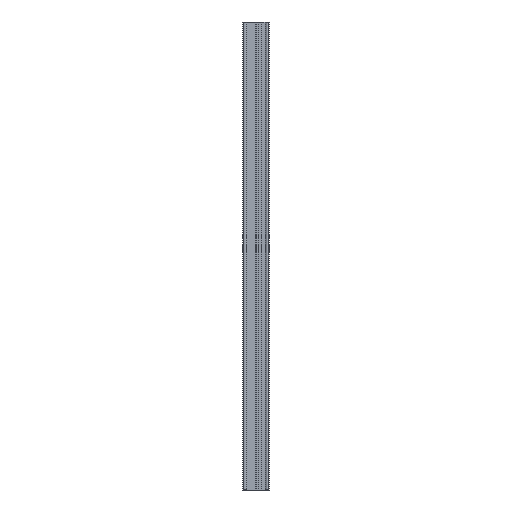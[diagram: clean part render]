
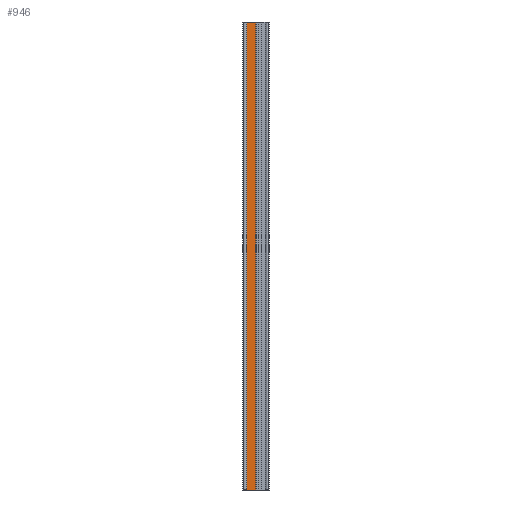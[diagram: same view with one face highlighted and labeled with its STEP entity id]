
A CAD part, left-side view. The second image highlights one B-rep face of the part: STEP entity #946.
In plain terms, the highlighted planar face has unit normal (-1, 0, 0).
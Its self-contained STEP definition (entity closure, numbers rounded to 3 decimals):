
#946 = ADVANCED_FACE ( 'NONE', ( #4521 ), #4520, .T. ) ;
#947 = EDGE_LOOP ( 'NONE', ( #948, #951, #954, #956 ) ) ;
#948 = ORIENTED_EDGE ( 'NONE', *, *, #949, .F. ) ;
#949 = EDGE_CURVE ( 'NONE', #950, #1042, #4515, .T. ) ;
#950 = VERTEX_POINT ( 'NONE', #4511 ) ;
#951 = ORIENTED_EDGE ( 'NONE', *, *, #952, .F. ) ;
#952 = EDGE_CURVE ( 'NONE', #953, #950, #4510, .T. ) ;
#953 = VERTEX_POINT ( 'NONE', #4506 ) ;
#954 = ORIENTED_EDGE ( 'NONE', *, *, #955, .T. ) ;
#955 = EDGE_CURVE ( 'NONE', #953, #1045, #4452, .T. ) ;
#956 = ORIENTED_EDGE ( 'NONE', *, *, #1044, .T. ) ;
#1042 = VERTEX_POINT ( 'NONE', #4899 ) ;
#1044 = EDGE_CURVE ( 'NONE', #1045, #1042, #4898, .T. ) ;
#1045 = VERTEX_POINT ( 'NONE', #4894 ) ;
#4449 = DIRECTION ( 'NONE',  ( 0., -1., 0. ) ) ;
#4450 = VECTOR ( 'NONE', #4449, 1000. ) ;
#4451 = CARTESIAN_POINT ( 'NONE',  ( -40., 40.3, -699. ) ) ;
#4452 = LINE ( 'NONE', #4451, #4450 ) ;
#4506 = CARTESIAN_POINT ( 'NONE',  ( -40., 67.222, -699. ) ) ;
#4507 = DIRECTION ( 'NONE',  ( 0., 0., 1. ) ) ;
#4508 = VECTOR ( 'NONE', #4507, 1000. ) ;
#4509 = CARTESIAN_POINT ( 'NONE',  ( -40., 67.222, -699. ) ) ;
#4510 = LINE ( 'NONE', #4509, #4508 ) ;
#4511 = CARTESIAN_POINT ( 'NONE',  ( -40., 67.222, 699. ) ) ;
#4512 = DIRECTION ( 'NONE',  ( 0., -1., 0. ) ) ;
#4513 = VECTOR ( 'NONE', #4512, 1000. ) ;
#4514 = CARTESIAN_POINT ( 'NONE',  ( -40., 40.3, 699. ) ) ;
#4515 = LINE ( 'NONE', #4514, #4513 ) ;
#4516 = DIRECTION ( 'NONE',  ( 0., -1., 0. ) ) ;
#4517 = DIRECTION ( 'NONE',  ( -1., 0., 0. ) ) ;
#4518 = CARTESIAN_POINT ( 'NONE',  ( -40., 40.3, -699. ) ) ;
#4519 = AXIS2_PLACEMENT_3D ( 'NONE', #4518, #4517, #4516 ) ;
#4520 = PLANE ( 'NONE',  #4519 ) ;
#4521 = FACE_OUTER_BOUND ( 'NONE', #947, .T. ) ;
#4894 = CARTESIAN_POINT ( 'NONE',  ( -40., 40.3, -699. ) ) ;
#4895 = DIRECTION ( 'NONE',  ( 0., 0., 1. ) ) ;
#4896 = VECTOR ( 'NONE', #4895, 1000. ) ;
#4897 = CARTESIAN_POINT ( 'NONE',  ( -40., 40.3, -699. ) ) ;
#4898 = LINE ( 'NONE', #4897, #4896 ) ;
#4899 = CARTESIAN_POINT ( 'NONE',  ( -40., 40.3, 699. ) ) ;
